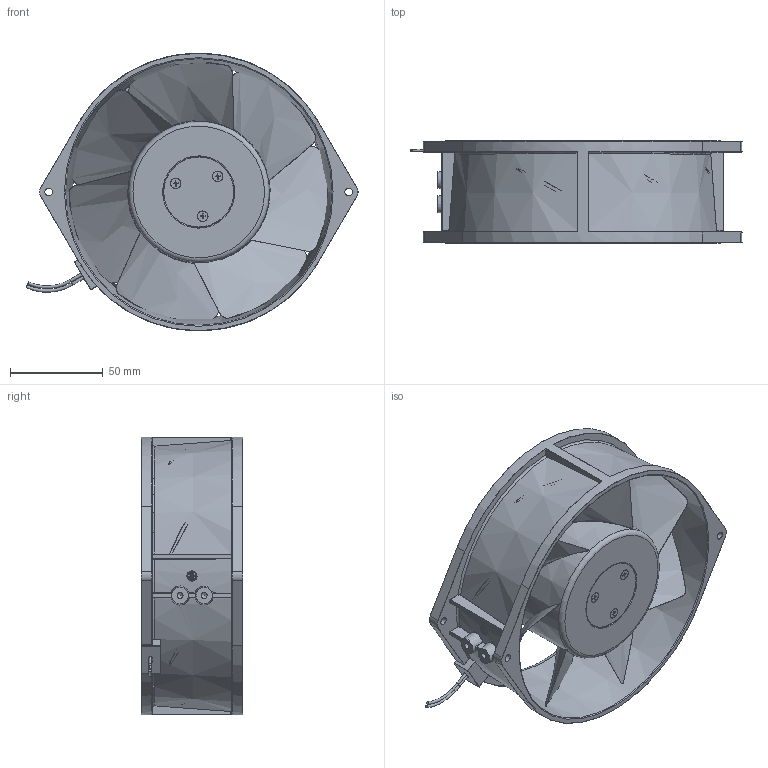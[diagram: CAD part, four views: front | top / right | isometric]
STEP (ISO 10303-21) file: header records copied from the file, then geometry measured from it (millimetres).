
FILE_DESCRIPTION(/* description */ (''),/* implementation_level */ '2;1');
FILE_NAME(/* name */ 'D:\Котлубовский\Вентиляторы\VENT-17255.220VAC.7MOHB\На отправку\VENT-17255.220VAC.7MOHB Вентилятор в сборе.stp',/* time_stamp */ '2021-01-22T17:33:10+07:00',/* author */ ('YURY_'),/* organization */ (''),/* preprocessor_version */ 'ST-DEVELOPER v17.2',/* originating_system */ 'Autodesk Inventor 2019',/* authorisation */ '');
FILE_SCHEMA (('AUTOMOTIVE_DESIGN { 1 0 10303 214 3 1 1 }'));
Length unit declared in the file: millimetre
Products named in the file (9): VENT-17255.220VAC.7MOHB Вентилятор 
в сборе; Корпус VENT-17255.220VAC.7M
OHB; Отлив проводов 
VENT-17255.220VAC.7MOHB; Крышка проводов 
VENT-17255.220VAC.7MOHB; Крыльчатка VENT
-17255.220VAC.7MOHB; Крышка крыльчатки 
VENT-17255.220VAC.7MOHB; Винт 2.M3-6gx3,5 ГОСТ 
17475-80; Наклейка центральная 
VENT-17255.220VAC.7MOHB; Провода
Assembly tree (10 placements, depth 2):
  VENT-17255.220VAC.7MOHB Вентилятор 
в сборе
    Корпус VENT-17255.220VAC.7M
OHB
    Отлив проводов 
VENT-17255.220VAC.7MOHB
    Крышка проводов 
VENT-17255.220VAC.7MOHB
    Крыльчатка VENT
-17255.220VAC.7MOHB
    Крышка крыльчатки 
VENT-17255.220VAC.7MOHB
    Винт 2.M3-6gx3,5 ГОСТ 
17475-80  x3
    Наклейка центральная 
VENT-17255.220VAC.7MOHB
    Провода
Bounding box: 179.26 x 55 x 150 mm (x, y, z)
Volume: 210185.9 mm3; surface area: 159873 mm2
Topology: 11 solids, 11 shells, 5613 faces, 13936 edges, 8744 vertices
Faces by surface type: bspline 2494, plane 1909, cylinder 604, torus 375, sphere 145, cone 86
Full cylindrical faces by diameter (mm): 1.5 x2, 2.459 x3, 2.807 x1, 3 x6, 3.242 x2, 4.134 x4, 5.5 x1, 5.6 x3, 38 x2, 41.6 x1, 60 x1, 60.3 x1, 63 x1, 73 x1
Entity records: 200737 total; most frequent: CARTESIAN_POINT 84019, ORIENTED_EDGE 27470, DIRECTION 17387, EDGE_CURVE 13735, VERTEX_POINT 8641, LINE 6307, VECTOR 6307, EDGE_LOOP 6036
